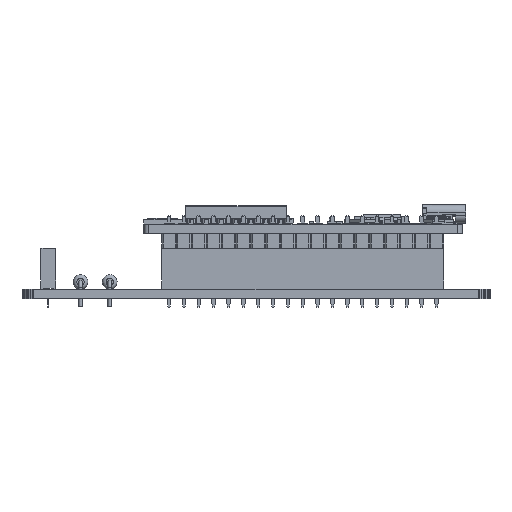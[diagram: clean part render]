
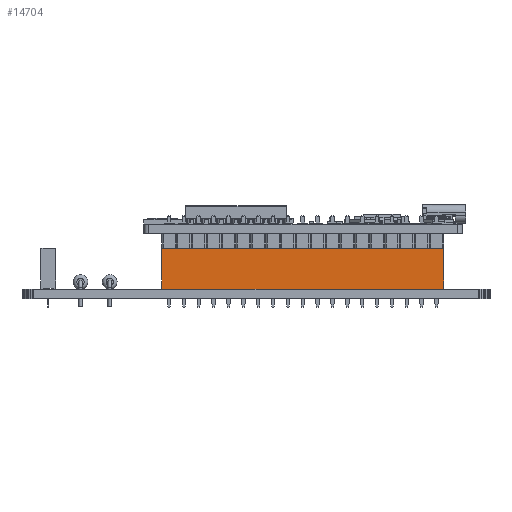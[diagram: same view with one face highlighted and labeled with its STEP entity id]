
A CAD part, front view. The second image highlights one B-rep face of the part: STEP entity #14704.
In plain terms, the highlighted planar face has unit normal (0, -1, 0) as drawn and (-1, 0, 0) by its records, which use the part's own axes.
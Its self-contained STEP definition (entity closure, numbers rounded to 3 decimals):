
#8018 = PLANE('',#8019);
#8019 = AXIS2_PLACEMENT_3D('',#8020,#8021,#8022);
#8020 = CARTESIAN_POINT('',(-1.27,-46.99,0.));
#8021 = DIRECTION('',(0.,1.,0.));
#8022 = DIRECTION('',(1.,0.,0.));
#8046 = PLANE('',#8047);
#8047 = AXIS2_PLACEMENT_3D('',#8048,#8049,#8050);
#8048 = CARTESIAN_POINT('',(1.27,-46.99,7.));
#8049 = DIRECTION('',(-0.,0.,-1.));
#8050 = DIRECTION('',(0.,-1.,-0.));
#8074 = PLANE('',#8075);
#8075 = AXIS2_PLACEMENT_3D('',#8076,#8077,#8078);
#8076 = CARTESIAN_POINT('',(1.27,1.27,0.));
#8077 = DIRECTION('',(0.,-1.,0.));
#8078 = DIRECTION('',(-1.,0.,0.));
#8116 = VERTEX_POINT('',#8117);
#8117 = CARTESIAN_POINT('',(-1.27,-46.99,0.));
#8133 = PLANE('',#8134);
#8134 = AXIS2_PLACEMENT_3D('',#8135,#8136,#8137);
#8135 = CARTESIAN_POINT('',(1.27,-46.99,0.));
#8136 = DIRECTION('',(-0.,0.,-1.));
#8137 = DIRECTION('',(0.,-1.,-0.));
#8145 = EDGE_CURVE('',#8116,#8146,#8148,.T.);
#8146 = VERTEX_POINT('',#8147);
#8147 = CARTESIAN_POINT('',(-1.27,-46.99,7.));
#8148 = SURFACE_CURVE('',#8149,(#8153,#8160),.PCURVE_S1.);
#8149 = LINE('',#8150,#8151);
#8150 = CARTESIAN_POINT('',(-1.27,-46.99,0.));
#8151 = VECTOR('',#8152,1.);
#8152 = DIRECTION('',(0.,0.,1.));
#8153 = PCURVE('',#8018,#8154);
#8154 = DEFINITIONAL_REPRESENTATION('',(#8155),#8159);
#8155 = LINE('',#8156,#8157);
#8156 = CARTESIAN_POINT('',(0.,0.));
#8157 = VECTOR('',#8158,1.);
#8158 = DIRECTION('',(0.,-1.));
#8159 = ( GEOMETRIC_REPRESENTATION_CONTEXT(2) 
PARAMETRIC_REPRESENTATION_CONTEXT() REPRESENTATION_CONTEXT('2D SPACE',''
  ) );
#8160 = PCURVE('',#8161,#8166);
#8161 = PLANE('',#8162);
#8162 = AXIS2_PLACEMENT_3D('',#8163,#8164,#8165);
#8163 = CARTESIAN_POINT('',(-1.27,1.27,0.));
#8164 = DIRECTION('',(1.,0.,0.));
#8165 = DIRECTION('',(0.,-1.,0.));
#8166 = DEFINITIONAL_REPRESENTATION('',(#8167),#8171);
#8167 = LINE('',#8168,#8169);
#8168 = CARTESIAN_POINT('',(48.26,0.));
#8169 = VECTOR('',#8170,1.);
#8170 = DIRECTION('',(0.,-1.));
#8171 = ( GEOMETRIC_REPRESENTATION_CONTEXT(2) 
PARAMETRIC_REPRESENTATION_CONTEXT() REPRESENTATION_CONTEXT('2D SPACE',''
  ) );
#8328 = VERTEX_POINT('',#8329);
#8329 = CARTESIAN_POINT('',(-1.27,1.27,7.));
#8350 = EDGE_CURVE('',#8351,#8328,#8353,.T.);
#8351 = VERTEX_POINT('',#8352);
#8352 = CARTESIAN_POINT('',(-1.27,1.27,0.));
#8353 = SURFACE_CURVE('',#8354,(#8358,#8365),.PCURVE_S1.);
#8354 = LINE('',#8355,#8356);
#8355 = CARTESIAN_POINT('',(-1.27,1.27,0.));
#8356 = VECTOR('',#8357,1.);
#8357 = DIRECTION('',(0.,0.,1.));
#8358 = PCURVE('',#8074,#8359);
#8359 = DEFINITIONAL_REPRESENTATION('',(#8360),#8364);
#8360 = LINE('',#8361,#8362);
#8361 = CARTESIAN_POINT('',(2.54,0.));
#8362 = VECTOR('',#8363,1.);
#8363 = DIRECTION('',(0.,-1.));
#8364 = ( GEOMETRIC_REPRESENTATION_CONTEXT(2) 
PARAMETRIC_REPRESENTATION_CONTEXT() REPRESENTATION_CONTEXT('2D SPACE',''
  ) );
#8365 = PCURVE('',#8161,#8366);
#8366 = DEFINITIONAL_REPRESENTATION('',(#8367),#8371);
#8367 = LINE('',#8368,#8369);
#8368 = CARTESIAN_POINT('',(0.,0.));
#8369 = VECTOR('',#8370,1.);
#8370 = DIRECTION('',(0.,-1.));
#8371 = ( GEOMETRIC_REPRESENTATION_CONTEXT(2) 
PARAMETRIC_REPRESENTATION_CONTEXT() REPRESENTATION_CONTEXT('2D SPACE',''
  ) );
#8495 = EDGE_CURVE('',#8328,#8146,#8496,.T.);
#8496 = SURFACE_CURVE('',#8497,(#8501,#8508),.PCURVE_S1.);
#8497 = LINE('',#8498,#8499);
#8498 = CARTESIAN_POINT('',(-1.27,1.27,7.));
#8499 = VECTOR('',#8500,1.);
#8500 = DIRECTION('',(0.,-1.,0.));
#8501 = PCURVE('',#8046,#8502);
#8502 = DEFINITIONAL_REPRESENTATION('',(#8503),#8507);
#8503 = LINE('',#8504,#8505);
#8504 = CARTESIAN_POINT('',(-48.26,2.54));
#8505 = VECTOR('',#8506,1.);
#8506 = DIRECTION('',(1.,0.));
#8507 = ( GEOMETRIC_REPRESENTATION_CONTEXT(2) 
PARAMETRIC_REPRESENTATION_CONTEXT() REPRESENTATION_CONTEXT('2D SPACE',''
  ) );
#8508 = PCURVE('',#8161,#8509);
#8509 = DEFINITIONAL_REPRESENTATION('',(#8510),#8514);
#8510 = LINE('',#8511,#8512);
#8511 = CARTESIAN_POINT('',(0.,-7.));
#8512 = VECTOR('',#8513,1.);
#8513 = DIRECTION('',(1.,0.));
#8514 = ( GEOMETRIC_REPRESENTATION_CONTEXT(2) 
PARAMETRIC_REPRESENTATION_CONTEXT() REPRESENTATION_CONTEXT('2D SPACE',''
  ) );
#10708 = EDGE_CURVE('',#8351,#8116,#10709,.T.);
#10709 = SURFACE_CURVE('',#10710,(#10714,#10721),.PCURVE_S1.);
#10710 = LINE('',#10711,#10712);
#10711 = CARTESIAN_POINT('',(-1.27,1.27,0.));
#10712 = VECTOR('',#10713,1.);
#10713 = DIRECTION('',(0.,-1.,0.));
#10714 = PCURVE('',#8133,#10715);
#10715 = DEFINITIONAL_REPRESENTATION('',(#10716),#10720);
#10716 = LINE('',#10717,#10718);
#10717 = CARTESIAN_POINT('',(-48.26,2.54));
#10718 = VECTOR('',#10719,1.);
#10719 = DIRECTION('',(1.,0.));
#10720 = ( GEOMETRIC_REPRESENTATION_CONTEXT(2) 
PARAMETRIC_REPRESENTATION_CONTEXT() REPRESENTATION_CONTEXT('2D SPACE',''
  ) );
#10721 = PCURVE('',#8161,#10722);
#10722 = DEFINITIONAL_REPRESENTATION('',(#10723),#10727);
#10723 = LINE('',#10724,#10725);
#10724 = CARTESIAN_POINT('',(0.,0.));
#10725 = VECTOR('',#10726,1.);
#10726 = DIRECTION('',(1.,0.));
#10727 = ( GEOMETRIC_REPRESENTATION_CONTEXT(2) 
PARAMETRIC_REPRESENTATION_CONTEXT() REPRESENTATION_CONTEXT('2D SPACE',''
  ) );
#14704 = ADVANCED_FACE('',(#14705),#8161,.F.);
#14705 = FACE_BOUND('',#14706,.F.);
#14706 = EDGE_LOOP('',(#14707,#14708,#14709,#14710));
#14707 = ORIENTED_EDGE('',*,*,#8350,.T.);
#14708 = ORIENTED_EDGE('',*,*,#8495,.T.);
#14709 = ORIENTED_EDGE('',*,*,#8145,.F.);
#14710 = ORIENTED_EDGE('',*,*,#10708,.F.);
